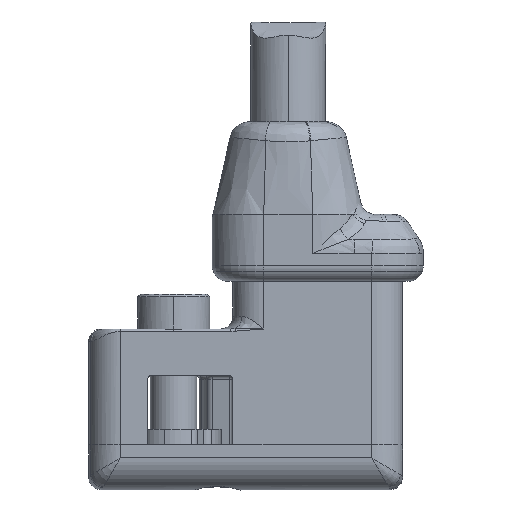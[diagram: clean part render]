
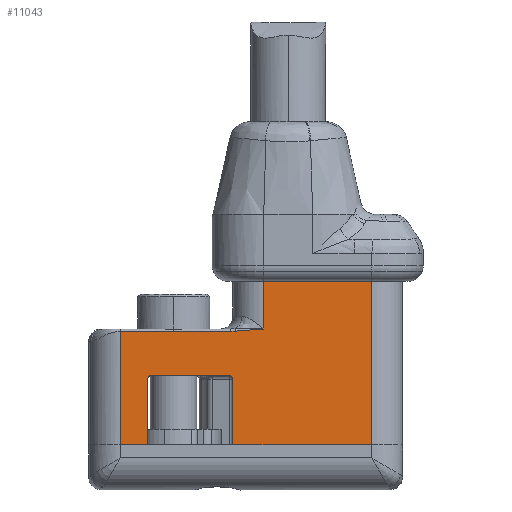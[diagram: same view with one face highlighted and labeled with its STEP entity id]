
A CAD part, top view. The second image highlights one B-rep face of the part: STEP entity #11043.
In plain terms, the highlighted planar face has unit normal (0, 0, 1).
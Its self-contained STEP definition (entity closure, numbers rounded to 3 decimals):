
#699=DIRECTION('',(-1.,0.,0.));
#700=VECTOR('',#699,4.183);
#701=CARTESIAN_POINT('',(10.991,8.1,1.42));
#702=LINE('',#701,#700);
#3233=DIRECTION('',(0.,1.,0.));
#3234=VECTOR('',#3233,2.55);
#3235=CARTESIAN_POINT('',(5.6,1.75,1.42));
#3236=LINE('',#3235,#3234);
#3240=CARTESIAN_POINT('',(5.45,4.3,1.42));
#3241=DIRECTION('',(0.,0.,1.));
#3242=DIRECTION('',(1.,0.,0.));
#3243=AXIS2_PLACEMENT_3D('',#3240,#3241,#3242);
#3248=DIRECTION('',(-1.,0.,0.));
#3249=VECTOR('',#3248,3.);
#3250=CARTESIAN_POINT('',(5.45,4.45,1.42));
#3251=LINE('',#3250,#3249);
#3255=CARTESIAN_POINT('',(2.45,4.3,1.42));
#3256=DIRECTION('',(0.,0.,1.));
#3257=DIRECTION('',(0.,1.,0.));
#3258=AXIS2_PLACEMENT_3D('',#3255,#3256,#3257);
#3263=CARTESIAN_POINT('',(5.513,6.15,1.42));
#3264=CARTESIAN_POINT('',(5.577,6.15,1.42));
#3265=CARTESIAN_POINT('',(5.641,6.156,1.42));
#3266=CARTESIAN_POINT('',(5.705,6.167,1.42));
#3271=CARTESIAN_POINT('',(5.705,6.167,1.42));
#3272=CARTESIAN_POINT('',(5.771,6.178,1.42));
#3273=CARTESIAN_POINT('',(5.909,6.194,1.42));
#3274=CARTESIAN_POINT('',(6.149,6.213,1.42));
#3275=CARTESIAN_POINT('',(6.362,6.226,1.42));
#3276=CARTESIAN_POINT('',(6.577,6.238,1.42));
#3277=CARTESIAN_POINT('',(6.73,6.246,1.42));
#3278=CARTESIAN_POINT('',(6.809,6.25,1.42));
#3298=DIRECTION('',(0.,1.,0.));
#3299=VECTOR('',#3298,6.35);
#3300=CARTESIAN_POINT('',(10.991,1.75,1.42));
#3301=LINE('',#3300,#3299);
#3791=DIRECTION('',(0.,1.,0.));
#3792=VECTOR('',#3791,2.55);
#3793=CARTESIAN_POINT('',(2.3,1.75,1.42));
#3794=LINE('',#3793,#3792);
#4596=DIRECTION('',(1.,0.,0.));
#4597=VECTOR('',#4596,5.391);
#4598=CARTESIAN_POINT('',(5.6,1.75,1.42));
#4599=LINE('',#4598,#4597);
#4603=DIRECTION('',(1.,0.,0.));
#4604=VECTOR('',#4603,1.069);
#4605=CARTESIAN_POINT('',(1.231,1.75,1.42));
#4606=LINE('',#4605,#4604);
#4821=DIRECTION('',(0.,-1.,0.));
#4822=VECTOR('',#4821,4.4);
#4823=CARTESIAN_POINT('',(1.231,6.15,1.42));
#4824=LINE('',#4823,#4822);
#4879=DIRECTION('',(-1.,0.,0.));
#4880=VECTOR('',#4879,4.282);
#4881=CARTESIAN_POINT('',(5.513,6.15,1.42));
#4882=LINE('',#4881,#4880);
#4940=DIRECTION('',(0.,-1.,0.));
#4941=VECTOR('',#4940,1.85);
#4942=CARTESIAN_POINT('',(6.809,8.1,1.42));
#4943=LINE('',#4942,#4941);
#5278=CARTESIAN_POINT('',(5.6,1.75,1.42));
#5279=VERTEX_POINT('',#5278);
#5280=CARTESIAN_POINT('',(2.3,1.75,1.42));
#5281=VERTEX_POINT('',#5280);
#5412=CARTESIAN_POINT('',(10.991,8.1,1.42));
#5413=CARTESIAN_POINT('',(6.809,8.1,1.42));
#5414=VERTEX_POINT('',#5412);
#5415=VERTEX_POINT('',#5413);
#5607=CARTESIAN_POINT('',(10.991,1.75,1.42));
#5608=VERTEX_POINT('',#5607);
#5609=CARTESIAN_POINT('',(5.6,4.3,1.42));
#5610=VERTEX_POINT('',#5609);
#5611=CARTESIAN_POINT('',(5.45,4.45,1.42));
#5612=VERTEX_POINT('',#5611);
#5613=CARTESIAN_POINT('',(2.45,4.45,1.42));
#5614=VERTEX_POINT('',#5613);
#5615=CARTESIAN_POINT('',(2.3,4.3,1.42));
#5616=VERTEX_POINT('',#5615);
#5617=CARTESIAN_POINT('',(1.231,1.75,1.42));
#5618=VERTEX_POINT('',#5617);
#5619=CARTESIAN_POINT('',(1.231,6.15,1.42));
#5620=VERTEX_POINT('',#5619);
#5621=CARTESIAN_POINT('',(5.513,6.15,1.42));
#5622=VERTEX_POINT('',#5621);
#5623=VERTEX_POINT('',#3266);
#5624=VERTEX_POINT('',#3278);
#11009=CARTESIAN_POINT('',(0.,0.,1.42));
#11010=DIRECTION('',(0.,0.,-1.));
#11011=DIRECTION('',(-1.,0.,0.));
#11012=AXIS2_PLACEMENT_3D('',#11009,#11010,#11011);
#11013=PLANE('',#11012);
#11015=ORIENTED_EDGE('',*,*,#11014,.F.);
#11017=ORIENTED_EDGE('',*,*,#11016,.F.);
#11019=ORIENTED_EDGE('',*,*,#11018,.T.);
#11021=ORIENTED_EDGE('',*,*,#11020,.T.);
#11023=ORIENTED_EDGE('',*,*,#11022,.T.);
#11025=ORIENTED_EDGE('',*,*,#11024,.T.);
#11027=ORIENTED_EDGE('',*,*,#11026,.F.);
#11029=ORIENTED_EDGE('',*,*,#11028,.F.);
#11031=ORIENTED_EDGE('',*,*,#11030,.F.);
#11033=ORIENTED_EDGE('',*,*,#11032,.F.);
#11035=ORIENTED_EDGE('',*,*,#11034,.T.);
#11037=ORIENTED_EDGE('',*,*,#11036,.T.);
#11039=ORIENTED_EDGE('',*,*,#11038,.F.);
#11040=ORIENTED_EDGE('',*,*,#6589,.F.);
#11041=EDGE_LOOP('',(#11015,#11017,#11019,#11021,#11023,#11025,#11027,#11029,
#11031,#11033,#11035,#11037,#11039,#11040));
#11042=FACE_OUTER_BOUND('',#11041,.F.);
#11043=ADVANCED_FACE('',(#11042),#11013,.F.);
#3244=CIRCLE('',#3243,0.15);
#3259=CIRCLE('',#3258,0.15);
#3267=B_SPLINE_CURVE_WITH_KNOTS('',3,(#3263,#3264,#3265,#3266),.UNSPECIFIED.,
.F.,.F.,(4,4),(0.,1.),.UNSPECIFIED.);
#3279=B_SPLINE_CURVE_WITH_KNOTS('',3,(#3271,#3272,#3273,#3274,#3275,#3276,#3277,
#3278),.UNSPECIFIED.,.F.,.F.,(4,1,1,1,1,4),(0.,0.2,0.4,0.6,0.8,1.),
.UNSPECIFIED.);
#6589=EDGE_CURVE('',#5414,#5415,#702,.T.);
#11014=EDGE_CURVE('',#5608,#5414,#3301,.T.);
#11016=EDGE_CURVE('',#5279,#5608,#4599,.T.);
#11018=EDGE_CURVE('',#5279,#5610,#3236,.T.);
#11020=EDGE_CURVE('',#5610,#5612,#3244,.T.);
#11022=EDGE_CURVE('',#5612,#5614,#3251,.T.);
#11024=EDGE_CURVE('',#5614,#5616,#3259,.T.);
#11026=EDGE_CURVE('',#5281,#5616,#3794,.T.);
#11028=EDGE_CURVE('',#5618,#5281,#4606,.T.);
#11030=EDGE_CURVE('',#5620,#5618,#4824,.T.);
#11032=EDGE_CURVE('',#5622,#5620,#4882,.T.);
#11034=EDGE_CURVE('',#5622,#5623,#3267,.T.);
#11036=EDGE_CURVE('',#5623,#5624,#3279,.T.);
#11038=EDGE_CURVE('',#5415,#5624,#4943,.T.);
